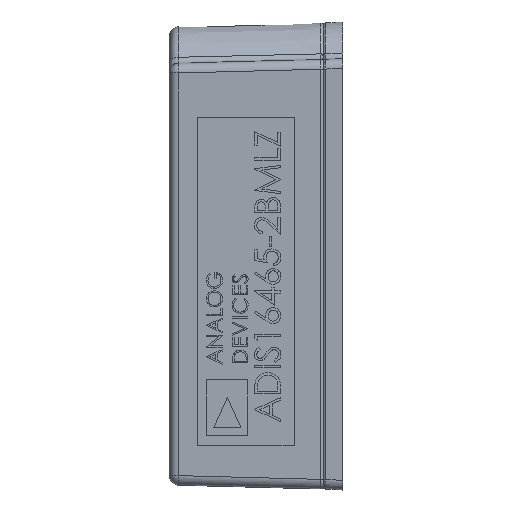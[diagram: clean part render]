
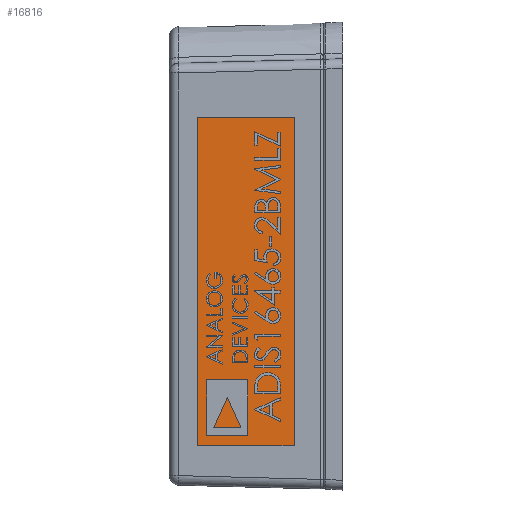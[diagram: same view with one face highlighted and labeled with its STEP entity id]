
A CAD part, left-side view. The second image highlights one B-rep face of the part: STEP entity #16816.
In plain terms, the highlighted planar face has unit normal (-1, 0.026, 0) as drawn and (1, -0.026, 0) by its records, which use the part's own axes.
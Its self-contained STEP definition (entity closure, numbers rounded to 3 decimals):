
#3693 = VERTEX_POINT ( 'NONE', #30538 ) ;
#4326 = ORIENTED_EDGE ( 'NONE', *, *, #41129, .T. ) ;
#10276 = ORIENTED_EDGE ( 'NONE', *, *, #23073, .T. ) ;
#12265 = CARTESIAN_POINT ( 'NONE',  ( 11.21, 6.477, 7.841 ) ) ;
#13061 = CARTESIAN_POINT ( 'NONE',  ( 11.079, 1.459, -9.206 ) ) ;
#13287 = DIRECTION ( 'NONE',  ( 0., 0., 1. ) ) ;
#16816 = ADVANCED_FACE ( 'NONE', ( #66028 ), #58544, .T. ) ;
#17290 = EDGE_LOOP ( 'NONE', ( #10276, #62174, #4326, #55895 ) ) ;
#22165 = VECTOR ( 'NONE', #22189, 1000. ) ;
#22189 = DIRECTION ( 'NONE',  ( -0.026, -1., 0. ) ) ;
#23073 = EDGE_CURVE ( 'NONE', #50773, #3693, #45342, .T. ) ;
#28040 = CARTESIAN_POINT ( 'NONE',  ( 11.033, -0.289, 0. ) ) ;
#30128 = VECTOR ( 'NONE', #13287, 1000. ) ;
#30274 = VECTOR ( 'NONE', #50368, 1000. ) ;
#30538 = CARTESIAN_POINT ( 'NONE',  ( 11.21, 6.477, -9.206 ) ) ;
#33965 = CARTESIAN_POINT ( 'NONE',  ( 11.079, 1.459, -9.206 ) ) ;
#34176 = DIRECTION ( 'NONE',  ( 1., -0.026, 0. ) ) ;
#34461 = EDGE_CURVE ( 'NONE', #3693, #59884, #46387, .T. ) ;
#41129 = EDGE_CURVE ( 'NONE', #59884, #78817, #53856, .T. ) ;
#41579 = AXIS2_PLACEMENT_3D ( 'NONE', #28040, #34176, #59079 ) ;
#45342 = LINE ( 'NONE', #33965, #54020 ) ;
#45735 = CARTESIAN_POINT ( 'NONE',  ( 11.079, 1.459, 7.841 ) ) ;
#46387 = LINE ( 'NONE', #75230, #30128 ) ;
#50368 = DIRECTION ( 'NONE',  ( 0., 0., -1. ) ) ;
#50773 = VERTEX_POINT ( 'NONE', #61537 ) ;
#51858 = EDGE_CURVE ( 'NONE', #78817, #50773, #64812, .T. ) ;
#53856 = LINE ( 'NONE', #45735, #22165 ) ;
#54020 = VECTOR ( 'NONE', #76077, 1000. ) ;
#55895 = ORIENTED_EDGE ( 'NONE', *, *, #51858, .T. ) ;
#58544 = PLANE ( 'NONE',  #41579 ) ;
#59079 = DIRECTION ( 'NONE',  ( 0.026, 1., 0. ) ) ;
#59884 = VERTEX_POINT ( 'NONE', #12265 ) ;
#61537 = CARTESIAN_POINT ( 'NONE',  ( 11.079, 1.459, -9.206 ) ) ;
#61782 = CARTESIAN_POINT ( 'NONE',  ( 11.079, 1.459, 7.841 ) ) ;
#62174 = ORIENTED_EDGE ( 'NONE', *, *, #34461, .T. ) ;
#64812 = LINE ( 'NONE', #13061, #30274 ) ;
#66028 = FACE_OUTER_BOUND ( 'NONE', #17290, .T. ) ;
#75230 = CARTESIAN_POINT ( 'NONE',  ( 11.21, 6.477, -9.206 ) ) ;
#76077 = DIRECTION ( 'NONE',  ( 0.026, 1., 0. ) ) ;
#78817 = VERTEX_POINT ( 'NONE', #61782 ) ;
